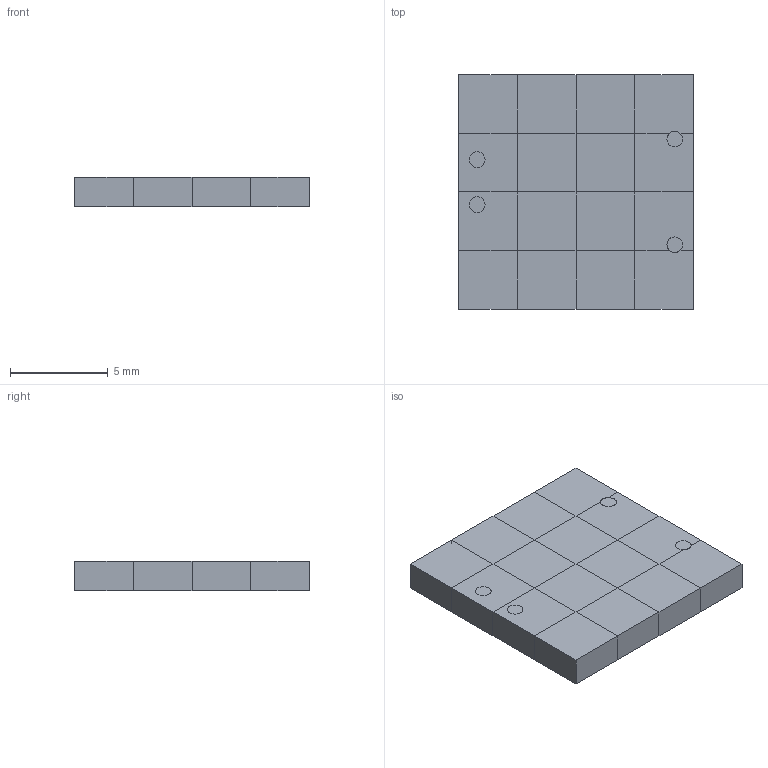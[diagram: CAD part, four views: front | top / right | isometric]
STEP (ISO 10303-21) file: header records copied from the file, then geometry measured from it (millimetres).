
FILE_DESCRIPTION(('Open CASCADE Model'),'2;1');
FILE_NAME('Open CASCADE Shape Model','2026-11-27T04:39:57',('Author'),( 'Open CASCADE'),'Open CASCADE STEP processor 7.9','Open CASCADE 7.9' ,'Unknown');
FILE_SCHEMA(('AUTOMOTIVE_DESIGN { 1 0 10303 214 1 1 1 1 }'));
Length unit declared in the file: millimetre
Products named in the file (3): manifold_S5; fluid; solid
Assembly tree (2 placements, depth 2):
  manifold_S5
    fluid
    solid
Bounding box: 12 x 12 x 1.5 mm (x, y, z)
Volume: 216 mm3; surface area: 1296.6 mm2
Topology: 2 solids, 2 shells, 948 faces, 3142 edges, 1806 vertices
Faces by surface type: plane 940, cylinder 8
Full cylindrical faces by diameter (mm): 0.8 x8
Entity records: 74446 total; most frequent: CARTESIAN_POINT 13303, DIRECTION 11084, LINE 8858, VECTOR 8858, ORIENTED_EDGE 6284, PCURVE 6284, DEFINITIONAL_REPRESENTATION 6284, EDGE_CURVE 3142
